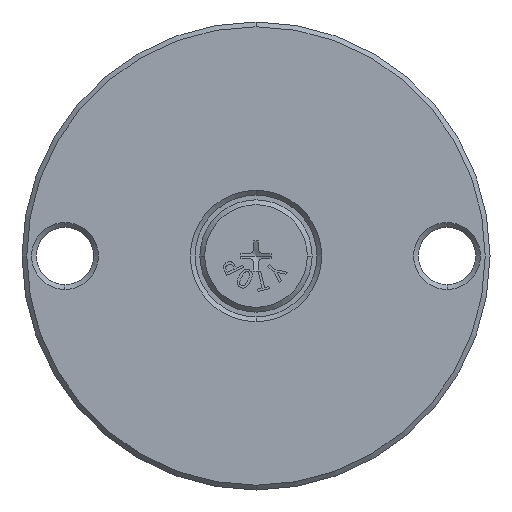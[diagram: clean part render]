
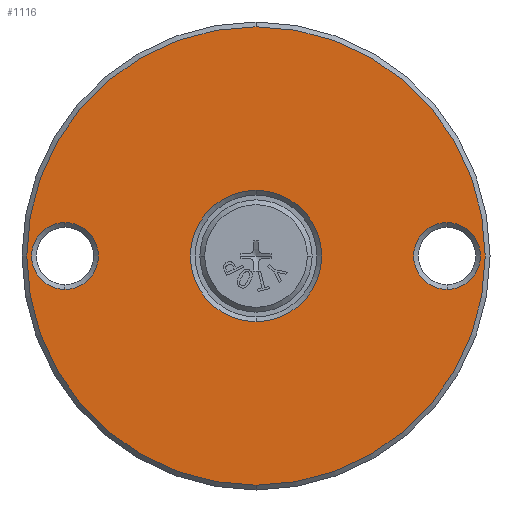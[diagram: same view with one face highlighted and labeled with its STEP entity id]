
A CAD part, front view. The second image highlights one B-rep face of the part: STEP entity #1116.
In plain terms, the highlighted planar face has unit normal (0, -1, 0).
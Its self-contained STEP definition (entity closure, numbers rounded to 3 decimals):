
#45 = CARTESIAN_POINT ( 'NONE',  ( 40., 0., -7. ) ) ;
#138 = ORIENTED_EDGE ( 'NONE', *, *, #5491, .T. ) ;
#234 = CIRCLE ( 'NONE', #633, 13.75 ) ;
#633 = AXIS2_PLACEMENT_3D ( 'NONE', #6408, #2540, #5790 ) ;
#684 = DIRECTION ( 'NONE',  ( 0., 1., 0. ) ) ;
#828 = CARTESIAN_POINT ( 'NONE',  ( 0., 0., -48. ) ) ;
#865 = ORIENTED_EDGE ( 'NONE', *, *, #5693, .T. ) ;
#881 = EDGE_CURVE ( 'NONE', #7736, #6271, #1280, .T. ) ;
#913 = CARTESIAN_POINT ( 'NONE',  ( 0., 0., 48. ) ) ;
#1016 = DIRECTION ( 'NONE',  ( 0., 1., 0. ) ) ;
#1059 = CARTESIAN_POINT ( 'NONE',  ( 40., 0., 0. ) ) ;
#1116 = ADVANCED_FACE ( 'NONE', ( #4093, #1674, #8114, #3344 ), #2298, .F. ) ;
#1220 = DIRECTION ( 'NONE',  ( 0., 0., 1. ) ) ;
#1280 = CIRCLE ( 'NONE', #7675, 7. ) ;
#1351 = AXIS2_PLACEMENT_3D ( 'NONE', #1590, #4211, #6856 ) ;
#1432 = DIRECTION ( 'NONE',  ( 0., -1., 0. ) ) ;
#1497 = VERTEX_POINT ( 'NONE', #7200 ) ;
#1590 = CARTESIAN_POINT ( 'NONE',  ( 49., 0., 0. ) ) ;
#1646 = ORIENTED_EDGE ( 'NONE', *, *, #7649, .T. ) ;
#1674 = FACE_BOUND ( 'NONE', #8082, .T. ) ;
#2223 = EDGE_LOOP ( 'NONE', ( #7748, #865 ) ) ;
#2258 = VERTEX_POINT ( 'NONE', #4081 ) ;
#2292 = DIRECTION ( 'NONE',  ( 0., 0., 1. ) ) ;
#2298 = PLANE ( 'NONE',  #1351 ) ;
#2354 = DIRECTION ( 'NONE',  ( 0., 0., 1. ) ) ;
#2525 = AXIS2_PLACEMENT_3D ( 'NONE', #5885, #684, #1220 ) ;
#2540 = DIRECTION ( 'NONE',  ( 0., 1., 0. ) ) ;
#2562 = AXIS2_PLACEMENT_3D ( 'NONE', #1059, #7154, #3233 ) ;
#2727 = VERTEX_POINT ( 'NONE', #4790 ) ;
#2732 = VERTEX_POINT ( 'NONE', #913 ) ;
#3034 = AXIS2_PLACEMENT_3D ( 'NONE', #6223, #6247, #2354 ) ;
#3151 = ORIENTED_EDGE ( 'NONE', *, *, #3592, .T. ) ;
#3233 = DIRECTION ( 'NONE',  ( 0., 0., 1. ) ) ;
#3344 = FACE_BOUND ( 'NONE', #2223, .T. ) ;
#3592 = EDGE_CURVE ( 'NONE', #4321, #2258, #6631, .T. ) ;
#3897 = ORIENTED_EDGE ( 'NONE', *, *, #4032, .T. ) ;
#4032 = EDGE_CURVE ( 'NONE', #2258, #4321, #8069, .T. ) ;
#4066 = EDGE_CURVE ( 'NONE', #1497, #2727, #234, .T. ) ;
#4081 = CARTESIAN_POINT ( 'NONE',  ( -40., 0., -7. ) ) ;
#4093 = FACE_BOUND ( 'NONE', #5654, .T. ) ;
#4184 = EDGE_CURVE ( 'NONE', #2732, #4553, #4882, .T. ) ;
#4190 = ORIENTED_EDGE ( 'NONE', *, *, #4184, .T. ) ;
#4206 = CARTESIAN_POINT ( 'NONE',  ( 0., 0., 0. ) ) ;
#4211 = DIRECTION ( 'NONE',  ( 0., 1., 0. ) ) ;
#4300 = CARTESIAN_POINT ( 'NONE',  ( -40., 0., 7. ) ) ;
#4321 = VERTEX_POINT ( 'NONE', #4300 ) ;
#4553 = VERTEX_POINT ( 'NONE', #828 ) ;
#4741 = EDGE_LOOP ( 'NONE', ( #4190, #138 ) ) ;
#4790 = CARTESIAN_POINT ( 'NONE',  ( 0., 0., 13.75 ) ) ;
#4869 = CIRCLE ( 'NONE', #7146, 13.75 ) ;
#4882 = CIRCLE ( 'NONE', #8374, 48. ) ;
#4946 = DIRECTION ( 'NONE',  ( 0., 0., 1. ) ) ;
#5003 = CARTESIAN_POINT ( 'NONE',  ( 40., 0., 0. ) ) ;
#5491 = EDGE_CURVE ( 'NONE', #4553, #2732, #5888, .T. ) ;
#5562 = DIRECTION ( 'NONE',  ( 0., 1., 0. ) ) ;
#5654 = EDGE_LOOP ( 'NONE', ( #1646, #7001 ) ) ;
#5693 = EDGE_CURVE ( 'NONE', #2727, #1497, #4869, .T. ) ;
#5766 = AXIS2_PLACEMENT_3D ( 'NONE', #7055, #7735, #6454 ) ;
#5790 = DIRECTION ( 'NONE',  ( 0., 0., 1. ) ) ;
#5885 = CARTESIAN_POINT ( 'NONE',  ( -40., 0., 0. ) ) ;
#5888 = CIRCLE ( 'NONE', #3034, 48. ) ;
#5906 = CARTESIAN_POINT ( 'NONE',  ( 40., 0., 7. ) ) ;
#6007 = DIRECTION ( 'NONE',  ( 0., 0., 1. ) ) ;
#6223 = CARTESIAN_POINT ( 'NONE',  ( 0., 0., 0. ) ) ;
#6247 = DIRECTION ( 'NONE',  ( 0., -1., 0. ) ) ;
#6271 = VERTEX_POINT ( 'NONE', #45 ) ;
#6408 = CARTESIAN_POINT ( 'NONE',  ( 0., 0., 0. ) ) ;
#6454 = DIRECTION ( 'NONE',  ( 0., 0., 1. ) ) ;
#6631 = CIRCLE ( 'NONE', #5766, 7. ) ;
#6856 = DIRECTION ( 'NONE',  ( 0., 0., 1. ) ) ;
#7001 = ORIENTED_EDGE ( 'NONE', *, *, #881, .T. ) ;
#7055 = CARTESIAN_POINT ( 'NONE',  ( -40., 0., 0. ) ) ;
#7146 = AXIS2_PLACEMENT_3D ( 'NONE', #4206, #1016, #2292 ) ;
#7154 = DIRECTION ( 'NONE',  ( 0., 1., 0. ) ) ;
#7200 = CARTESIAN_POINT ( 'NONE',  ( 0., 0., -13.75 ) ) ;
#7216 = CARTESIAN_POINT ( 'NONE',  ( 0., 0., 0. ) ) ;
#7649 = EDGE_CURVE ( 'NONE', #6271, #7736, #7707, .T. ) ;
#7675 = AXIS2_PLACEMENT_3D ( 'NONE', #5003, #5562, #4946 ) ;
#7707 = CIRCLE ( 'NONE', #2562, 7. ) ;
#7735 = DIRECTION ( 'NONE',  ( 0., 1., 0. ) ) ;
#7736 = VERTEX_POINT ( 'NONE', #5906 ) ;
#7748 = ORIENTED_EDGE ( 'NONE', *, *, #4066, .T. ) ;
#8069 = CIRCLE ( 'NONE', #2525, 7. ) ;
#8082 = EDGE_LOOP ( 'NONE', ( #3897, #3151 ) ) ;
#8114 = FACE_OUTER_BOUND ( 'NONE', #4741, .T. ) ;
#8374 = AXIS2_PLACEMENT_3D ( 'NONE', #7216, #1432, #6007 ) ;
